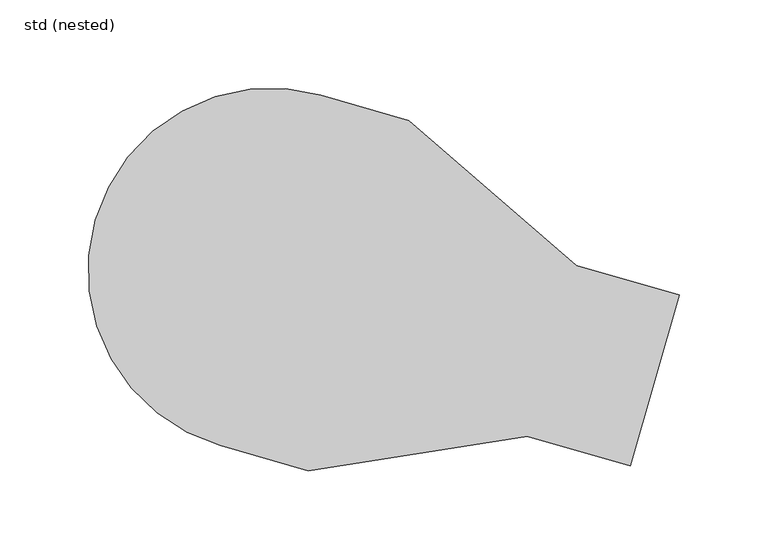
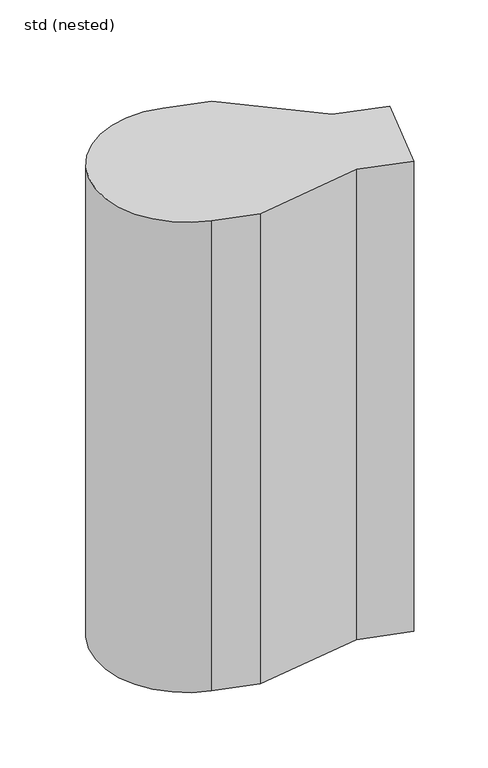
"""IFC4 building model written with IfcOpenShell, lengths in millimetres: unitary equipment geometry, ZZZ_do not use_ME_WPB_pump muliflex_ACO -SH : std (nested)."""

from ifc_helpers import new_model, si_unit, point, frame, frame_2d, origin, place, context, project, spatial, polyline, circle_curve, trimmed, segment, composite_curve, outline, extrude, source, transform, mapped, element, save


def std_nested_a3c687c5(model_context):
    return source(origin(), model_context, "Body", "SweptSolid", [
        extrude(outline(composite_curve([segment(polyline([(-6.8841345, 234.3432025), (42.3805274, 220.2167881), (136.7724533, 138.5346185), (194.4481551, 121.9963771), (166.8844195, 25.8702075), (109.2087177, 42.4084489), (-14.1251305, 23.1581404), (-63.3897924, 37.2845549)]), True, "CONTINUOUS"), segment(trimmed(circle_curve(frame_2d((-35.1369635, 135.8138787)), 102.5), [point((-63.3897924, 37.2845549))], [point((-6.8841345, 234.3432025))], False, "CARTESIAN"), True, "CONTINUOUS")], self_intersect=False)), frame((0.0, 0.0, 43.0), z_axis=(0.0, 0.0, 1.0), x_axis=(1.0, 0.0, 0.0)), (0.0, 0.0, 1.0), 582.0),
    ])


if __name__ == "__main__":
    model = new_model("IFC4")
    model_context = context("Model", 3, world=origin())
    ifc_project = project(units=[si_unit("LENGTHUNIT", "METRE", prefix="MILLI")], contexts=[model_context])
    site = spatial("IfcSite", under=ifc_project)
    building = spatial("IfcBuilding", under=site)
    placement = place(None, origin())
    std_nested_shape = std_nested_a3c687c5(model_context)
    element("IfcUnitaryEquipment", 1, ObjectType="ZZZ_do not use_ME_WPB_pump muliflex_ACO -SH : std (nested)", at=placement, inside=building, context=model_context, shape_type="MappedRepresentation", body=[
        mapped(std_nested_shape, transform((0.0, 0.0, 0.0), x_axis=(1.0, 0.0, 0.0), y_axis=(0.0, 1.0, 0.0), z_axis=(0.0, 0.0, 1.0))),
    ])
    save(model, "model.ifc")
